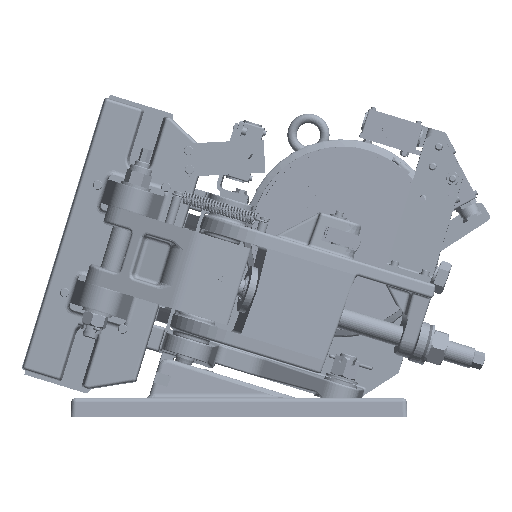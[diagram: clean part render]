
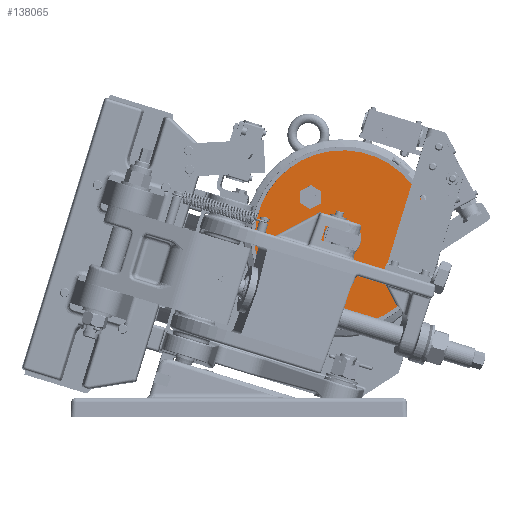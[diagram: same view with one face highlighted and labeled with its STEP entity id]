
A CAD part, top view. The second image highlights one B-rep face of the part: STEP entity #138065.
In plain terms, the highlighted planar face has unit normal (0.006, -0.002, 1).
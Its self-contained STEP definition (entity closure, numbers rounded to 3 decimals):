
#684=CARTESIAN_POINT('',(288.171,189.565,28.633));
#685=DIRECTION('',(0.006,-0.002,1.));
#686=DIRECTION('',(0.788,0.616,-0.004));
#687=AXIS2_PLACEMENT_3D('',#684,#685,#686);
#692=CARTESIAN_POINT('',(288.171,189.565,28.633));
#693=DIRECTION('',(0.006,-0.002,1.));
#694=DIRECTION('',(-0.788,-0.616,0.004));
#695=AXIS2_PLACEMENT_3D('',#692,#693,#694);
#700=CARTESIAN_POINT('',(288.171,189.565,28.633));
#701=DIRECTION('',(-0.006,0.002,-1.));
#702=DIRECTION('',(-0.788,-0.616,0.004));
#703=AXIS2_PLACEMENT_3D('',#700,#701,#702);
#708=CARTESIAN_POINT('',(288.171,189.565,28.633));
#709=DIRECTION('',(-0.006,0.002,-1.));
#710=DIRECTION('',(0.788,0.616,-0.004));
#711=AXIS2_PLACEMENT_3D('',#708,#709,#710);
#119210=DIRECTION('',(-0.959,-0.283,0.005));
#119211=VECTOR('',#119210,9.815);
#119212=CARTESIAN_POINT('',(261.424,226.144,
28.863));
#119213=LINE('',#119212,#119211);
#119224=DIRECTION('',(-0.725,0.689,0.006));
#119225=VECTOR('',#119224,9.815);
#119226=CARTESIAN_POINT('',(252.011,223.364,
28.914));
#119227=LINE('',#119226,#119225);
#119245=DIRECTION('',(0.234,0.972,0.));
#119246=VECTOR('',#119245,9.815);
#119247=CARTESIAN_POINT('',(244.897,230.126,
28.97));
#119248=LINE('',#119247,#119246);
#119259=DIRECTION('',(0.959,0.283,-0.005));
#119260=VECTOR('',#119259,9.815);
#119261=CARTESIAN_POINT('',(247.196,239.668,
28.974));
#119262=LINE('',#119261,#119260);
#119273=DIRECTION('',(0.725,-0.689,-0.006));
#119274=VECTOR('',#119273,9.815);
#119275=CARTESIAN_POINT('',(256.609,242.448,
28.922));
#119276=LINE('',#119275,#119274);
#119294=DIRECTION('',(-0.234,-0.972,
0.));
#119295=VECTOR('',#119294,9.815);
#119296=CARTESIAN_POINT('',(263.723,235.686,
28.866));
#119297=LINE('',#119296,#119295);
#126329=CARTESIAN_POINT('',(214.887,132.309,
28.971));
#126330=CARTESIAN_POINT('',(361.455,246.822,
28.296));
#126331=VERTEX_POINT('',#126329);
#126332=VERTEX_POINT('',#126330);
#126333=CARTESIAN_POINT('',(303.931,201.879,
28.56));
#126334=CARTESIAN_POINT('',(272.411,177.252,
28.706));
#126335=VERTEX_POINT('',#126333);
#126336=VERTEX_POINT('',#126334);
#126349=CARTESIAN_POINT('',(261.424,226.144,
28.863));
#126350=CARTESIAN_POINT('',(252.011,223.364,
28.914));
#126351=VERTEX_POINT('',#126349);
#126352=VERTEX_POINT('',#126350);
#126353=CARTESIAN_POINT('',(247.196,239.668,
28.974));
#126354=CARTESIAN_POINT('',(256.609,242.448,
28.922));
#126355=VERTEX_POINT('',#126353);
#126356=VERTEX_POINT('',#126354);
#126357=CARTESIAN_POINT('',(263.723,235.686,
28.866));
#126358=VERTEX_POINT('',#126357);
#126359=CARTESIAN_POINT('',(244.897,230.126,
28.97));
#126360=VERTEX_POINT('',#126359);
#138035=CARTESIAN_POINT('',(230.916,262.85,
29.115));
#138036=DIRECTION('',(-0.006,0.002,-1.));
#138037=DIRECTION('',(-0.788,-0.616,0.004));
#138038=AXIS2_PLACEMENT_3D('',#138035,#138036,#138037);
#138039=PLANE('',#138038);
#138040=ORIENTED_EDGE('',*,*,#138018,.F.);
#138042=ORIENTED_EDGE('',*,*,#138041,.F.);
#138043=EDGE_LOOP('',(#138040,#138042));
#138044=FACE_OUTER_BOUND('',#138043,.F.);
#138046=ORIENTED_EDGE('',*,*,#138045,.F.);
#138048=ORIENTED_EDGE('',*,*,#138047,.F.);
#138049=EDGE_LOOP('',(#138046,#138048));
#138050=FACE_BOUND('',#138049,.F.);
#138052=ORIENTED_EDGE('',*,*,#138051,.F.);
#138054=ORIENTED_EDGE('',*,*,#138053,.F.);
#138056=ORIENTED_EDGE('',*,*,#138055,.F.);
#138058=ORIENTED_EDGE('',*,*,#138057,.F.);
#138060=ORIENTED_EDGE('',*,*,#138059,.F.);
#138062=ORIENTED_EDGE('',*,*,#138061,.F.);
#138063=EDGE_LOOP('',(#138052,#138054,#138056,#138058,#138060,#138062));
#138064=FACE_BOUND('',#138063,.F.);
#138065=ADVANCED_FACE('',(#138044,#138050,#138064),#138039,.F.);
#688=CIRCLE('',#687,93.);
#696=CIRCLE('',#695,93.);
#704=CIRCLE('',#703,20.);
#712=CIRCLE('',#711,20.);
#138018=EDGE_CURVE('',#126332,#126331,#688,.T.);
#138041=EDGE_CURVE('',#126331,#126332,#696,.T.);
#138045=EDGE_CURVE('',#126336,#126335,#704,.T.);
#138047=EDGE_CURVE('',#126335,#126336,#712,.T.);
#138051=EDGE_CURVE('',#126351,#126352,#119213,.T.);
#138053=EDGE_CURVE('',#126358,#126351,#119297,.T.);
#138055=EDGE_CURVE('',#126356,#126358,#119276,.T.);
#138057=EDGE_CURVE('',#126355,#126356,#119262,.T.);
#138059=EDGE_CURVE('',#126360,#126355,#119248,.T.);
#138061=EDGE_CURVE('',#126352,#126360,#119227,.T.);
